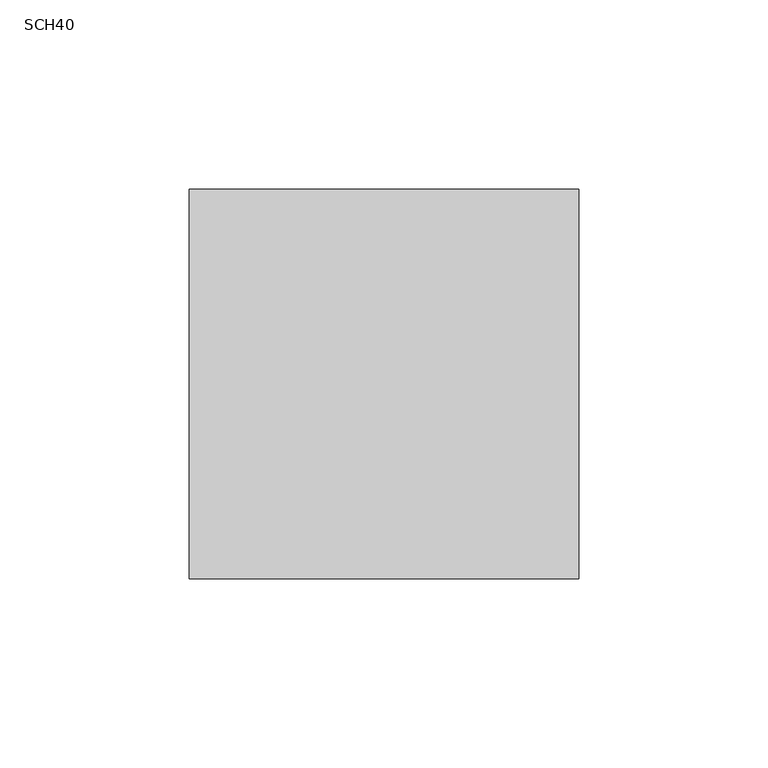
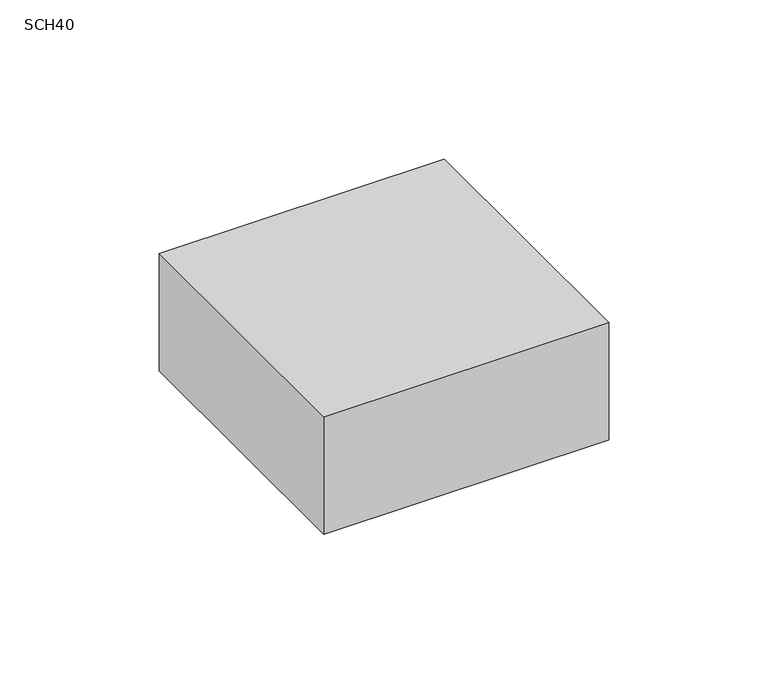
"""IFC4 building model written with IfcOpenShell, lengths in millimetres: cable carrier fitting geometry, PavcoWavin_ConduitFittings_CajaDoble_Union : SCH40."""

from ifc_helpers import new_model, si_unit, frame, origin, place, context, project, spatial, polyline, outline, extrude, source, transform, mapped, element, save


def sch40_e9edfee1(model_context):
    return source(origin(), model_context, "Body", "SweptSolid", [
        extrude(outline(polyline([(51.55, 51.55), (51.55, -51.55), (-51.55, -51.55), (-51.55, 51.55), (51.55, 51.55)])), frame((0.0, 0.0, -22.5), z_axis=(0.0, 0.0, 1.0), x_axis=(1.0, 0.0, 0.0)), (0.0, 0.0, 1.0), 45.0),
    ])


if __name__ == "__main__":
    model = new_model("IFC4")
    model_context = context("Model", 3, world=origin())
    ifc_project = project(units=[si_unit("LENGTHUNIT", "METRE", prefix="MILLI")], contexts=[model_context])
    site = spatial("IfcSite", under=ifc_project)
    building = spatial("IfcBuilding", under=site)
    placement = place(None, origin())
    sch40_shape = sch40_e9edfee1(model_context)
    element("IfcCableCarrierFitting", 1, ObjectType="PavcoWavin_ConduitFittings_CajaDoble_Union : SCH40", at=placement, inside=building, context=model_context, shape_type="MappedRepresentation", body=[
        mapped(sch40_shape, transform((0.0, 0.0, 0.0), x_axis=(1.0, 0.0, 0.0), y_axis=(0.0, 1.0, 0.0), z_axis=(0.0, 0.0, 1.0))),
    ])
    save(model, "model.ifc")
